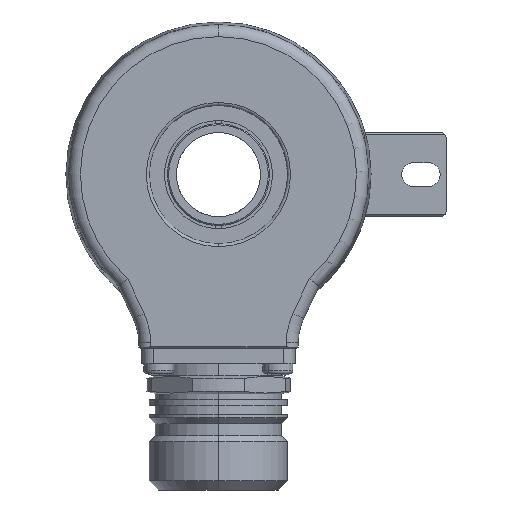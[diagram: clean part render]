
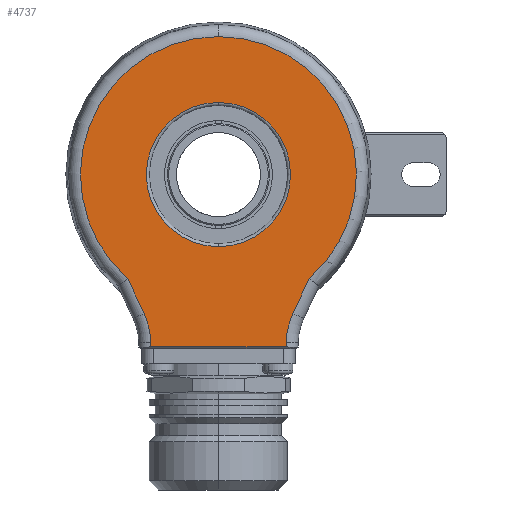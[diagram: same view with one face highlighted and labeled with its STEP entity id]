
A CAD part, left-side view. The second image highlights one B-rep face of the part: STEP entity #4737.
In plain terms, the highlighted planar face has unit normal (-1, 0, 0).
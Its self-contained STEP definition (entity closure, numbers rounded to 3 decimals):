
#1221 = DIRECTION ( 'NONE',  ( 0., -0.423, 0.906 ) ) ;
#1222 = VECTOR ( 'NONE', #1221, 1000. ) ;
#1223 = CARTESIAN_POINT ( 'NONE',  ( -21., -14.953, -17.615 ) ) ;
#1228 = LINE ( 'NONE', #1223, #1222 ) ;
#1322 = DIRECTION ( 'NONE',  ( 0., 0., 1. ) ) ;
#1323 = DIRECTION ( 'NONE',  ( -1., 0., 0. ) ) ;
#1324 = CARTESIAN_POINT ( 'NONE',  ( -21., 0., 0. ) ) ;
#1325 = AXIS2_PLACEMENT_3D ( 'NONE', #1324, #1323, #1322 ) ;
#1326 = CIRCLE ( 'NONE', #1325, 22.972 ) ;
#1373 = DIRECTION ( 'NONE',  ( 0., 0., 1. ) ) ;
#1374 = DIRECTION ( 'NONE',  ( 1., 0., 0. ) ) ;
#1375 = CARTESIAN_POINT ( 'NONE',  ( -21., -23.266, -28.183 ) ) ;
#1376 = AXIS2_PLACEMENT_3D ( 'NONE', #1375, #1374, #1373 ) ;
#1377 = CIRCLE ( 'NONE', #1376, 12. ) ;
#1427 = CARTESIAN_POINT ( 'NONE',  ( -21., -15.091, -17.32 ) ) ;
#1429 = FACE_OUTER_BOUND ( 'NONE', #4741, .T. ) ;
#1430 = FACE_BOUND ( 'NONE', #4738, .T. ) ;
#1431 = DIRECTION ( 'NONE',  ( 0., 0., 1. ) ) ;
#1432 = DIRECTION ( 'NONE',  ( 1., 0., 0. ) ) ;
#1433 = CARTESIAN_POINT ( 'NONE',  ( -21., 0., 0. ) ) ;
#1434 = AXIS2_PLACEMENT_3D ( 'NONE', #1433, #1432, #1431 ) ;
#1435 = CIRCLE ( 'NONE', #1434, 12. ) ;
#1452 = DIRECTION ( 'NONE',  ( 0., -0.017, 1. ) ) ;
#1453 = VECTOR ( 'NONE', #1452, 1000. ) ;
#1454 = CARTESIAN_POINT ( 'NONE',  ( -21., -11.752, -0.205 ) ) ;
#1455 = LINE ( 'NONE', #1454, #1453 ) ;
#1456 = DIRECTION ( 'NONE',  ( 0., 0., 1. ) ) ;
#1457 = DIRECTION ( 'NONE',  ( 1., 0., 0. ) ) ;
#1577 = CARTESIAN_POINT ( 'NONE',  ( -21., 0., 0. ) ) ;
#1578 = AXIS2_PLACEMENT_3D ( 'NONE', #1577, #1457, #1456 ) ;
#1579 = PLANE ( 'NONE',  #1578 ) ;
#1602 = CARTESIAN_POINT ( 'NONE',  ( -21., -12.39, -23.112 ) ) ;
#1603 = CARTESIAN_POINT ( 'NONE',  ( -21., -11.268, -27.974 ) ) ;
#2044 = DIRECTION ( 'NONE',  ( 0., 0., 1. ) ) ;
#2045 = DIRECTION ( 'NONE',  ( -1., 0., 0. ) ) ;
#2046 = CARTESIAN_POINT ( 'NONE',  ( -21., 0., 0. ) ) ;
#2047 = AXIS2_PLACEMENT_3D ( 'NONE', #2046, #2045, #2044 ) ;
#2048 = CIRCLE ( 'NONE', #2047, 22.972 ) ;
#4691 = EDGE_CURVE ( 'NONE', #4705, #4986, #1326, .T. ) ;
#4698 = EDGE_CURVE ( 'NONE', #4768, #4705, #1228, .T. ) ;
#4705 = VERTEX_POINT ( 'NONE', #1427 ) ;
#4718 = EDGE_CURVE ( 'NONE', #4767, #4768, #1377, .T. ) ;
#4736 = EDGE_CURVE ( 'NONE', #5064, #4990, #1435, .T. ) ;
#4737 = ADVANCED_FACE ( 'NONE', ( #1430, #1429 ), #1579, .F. ) ;
#4738 = EDGE_LOOP ( 'NONE', ( #4739, #4740 ) ) ;
#4739 = ORIENTED_EDGE ( 'NONE', *, *, #5105, .T. ) ;
#4740 = ORIENTED_EDGE ( 'NONE', *, *, #4736, .T. ) ;
#4741 = EDGE_LOOP ( 'NONE', ( #4742, #4743, #4744, #4895, #4896, #4897, #4898, #4839, #4840 ) ) ;
#4742 = ORIENTED_EDGE ( 'NONE', *, *, #5148, .T. ) ;
#4743 = ORIENTED_EDGE ( 'NONE', *, *, #5374, .T. ) ;
#4744 = ORIENTED_EDGE ( 'NONE', *, *, #4745, .T. ) ;
#4745 = EDGE_CURVE ( 'NONE', #5372, #4767, #1455, .T. ) ;
#4767 = VERTEX_POINT ( 'NONE', #1603 ) ;
#4768 = VERTEX_POINT ( 'NONE', #1602 ) ;
#4839 = ORIENTED_EDGE ( 'NONE', *, *, #5126, .T. ) ;
#4840 = ORIENTED_EDGE ( 'NONE', *, *, #5137, .T. ) ;
#4895 = ORIENTED_EDGE ( 'NONE', *, *, #4718, .T. ) ;
#4896 = ORIENTED_EDGE ( 'NONE', *, *, #4698, .T. ) ;
#4897 = ORIENTED_EDGE ( 'NONE', *, *, #4691, .T. ) ;
#4898 = ORIENTED_EDGE ( 'NONE', *, *, #4945, .T. ) ;
#4945 = EDGE_CURVE ( 'NONE', #4986, #4987, #2048, .T. ) ;
#4986 = VERTEX_POINT ( 'NONE', #19508 ) ;
#4987 = VERTEX_POINT ( 'NONE', #19507 ) ;
#4990 = VERTEX_POINT ( 'NONE', #19501 ) ;
#5064 = VERTEX_POINT ( 'NONE', #19255 ) ;
#5105 = EDGE_CURVE ( 'NONE', #4990, #5064, #12543, .T. ) ;
#5120 = VERTEX_POINT ( 'NONE', #12614 ) ;
#5126 = EDGE_CURVE ( 'NONE', #4987, #5120, #12609, .T. ) ;
#5135 = VERTEX_POINT ( 'NONE', #12726 ) ;
#5137 = EDGE_CURVE ( 'NONE', #5120, #5135, #12724, .T. ) ;
#5148 = EDGE_CURVE ( 'NONE', #5135, #5161, #12656, .T. ) ;
#5161 = VERTEX_POINT ( 'NONE', #9727 ) ;
#5372 = VERTEX_POINT ( 'NONE', #10417 ) ;
#5374 = EDGE_CURVE ( 'NONE', #5161, #5372, #10410, .T. ) ;
#9727 = CARTESIAN_POINT ( 'NONE',  ( -21., 11.255, -28.695 ) ) ;
#10407 = DIRECTION ( 'NONE',  ( 0., -1., 0. ) ) ;
#10408 = VECTOR ( 'NONE', #10407, 1000. ) ;
#10409 = CARTESIAN_POINT ( 'NONE',  ( -21., -11.25, -28.695 ) ) ;
#10410 = LINE ( 'NONE', #10409, #10408 ) ;
#10417 = CARTESIAN_POINT ( 'NONE',  ( -21., -11.255, -28.695 ) ) ;
#12539 = DIRECTION ( 'NONE',  ( 0., 0., 1. ) ) ;
#12540 = DIRECTION ( 'NONE',  ( 1., 0., 0. ) ) ;
#12541 = CARTESIAN_POINT ( 'NONE',  ( -21., 0., 0. ) ) ;
#12542 = AXIS2_PLACEMENT_3D ( 'NONE', #12541, #12540, #12539 ) ;
#12543 = CIRCLE ( 'NONE', #12542, 12. ) ;
#12606 = DIRECTION ( 'NONE',  ( 0., -0.423, -0.906 ) ) ;
#12607 = VECTOR ( 'NONE', #12606, 1000. ) ;
#12608 = CARTESIAN_POINT ( 'NONE',  ( -21., 12.39, -23.112 ) ) ;
#12609 = LINE ( 'NONE', #12608, #12607 ) ;
#12614 = CARTESIAN_POINT ( 'NONE',  ( -21., 12.39, -23.112 ) ) ;
#12653 = DIRECTION ( 'NONE',  ( 0., -0.017, -1. ) ) ;
#12654 = VECTOR ( 'NONE', #12653, 1000. ) ;
#12655 = CARTESIAN_POINT ( 'NONE',  ( -21., 11.752, -0.205 ) ) ;
#12656 = LINE ( 'NONE', #12655, #12654 ) ;
#12720 = DIRECTION ( 'NONE',  ( 0., 0., 1. ) ) ;
#12721 = DIRECTION ( 'NONE',  ( 1., 0., 0. ) ) ;
#12722 = CARTESIAN_POINT ( 'NONE',  ( -21., 23.266, -28.183 ) ) ;
#12723 = AXIS2_PLACEMENT_3D ( 'NONE', #12722, #12721, #12720 ) ;
#12724 = CIRCLE ( 'NONE', #12723, 12. ) ;
#12726 = CARTESIAN_POINT ( 'NONE',  ( -21., 11.268, -27.974 ) ) ;
#19255 = CARTESIAN_POINT ( 'NONE',  ( -21., 0., -12. ) ) ;
#19501 = CARTESIAN_POINT ( 'NONE',  ( -21., 0., 12. ) ) ;
#19507 = CARTESIAN_POINT ( 'NONE',  ( -21., 15.091, -17.32 ) ) ;
#19508 = CARTESIAN_POINT ( 'NONE',  ( -21., 0., 22.972 ) ) ;
